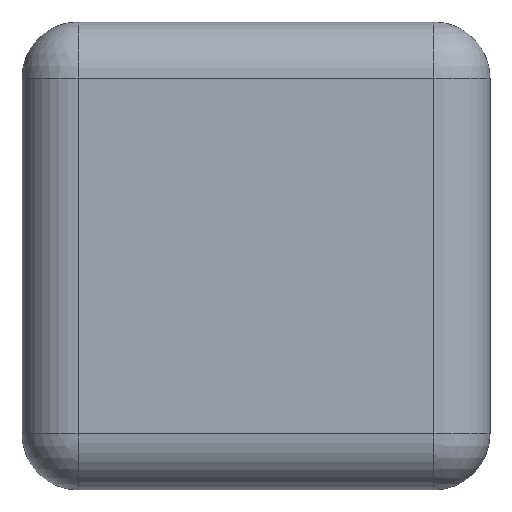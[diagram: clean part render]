
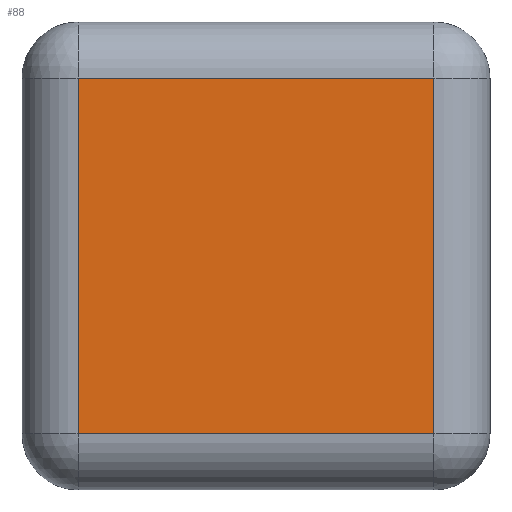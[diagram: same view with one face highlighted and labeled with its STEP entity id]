
A CAD part, top view. The second image highlights one B-rep face of the part: STEP entity #88.
In plain terms, the highlighted planar face has unit normal (0, 0, 1).
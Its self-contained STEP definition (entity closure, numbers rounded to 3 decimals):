
#34 = ORIENTED_EDGE ( 'NONE', *, *, #715, .T. ) ;
#36 = VECTOR ( 'NONE', #702, 1000. ) ;
#68 = DIRECTION ( 'NONE',  ( 0., -1., 0. ) ) ;
#72 = EDGE_LOOP ( 'NONE', ( #34, #135, #640, #692 ) ) ;
#88 = ADVANCED_FACE ( 'NONE', ( #666 ), #596, .T. ) ;
#92 = DIRECTION ( 'NONE',  ( 0., 0., 1. ) ) ;
#125 = VECTOR ( 'NONE', #532, 1000. ) ;
#135 = ORIENTED_EDGE ( 'NONE', *, *, #728, .T. ) ;
#144 = DIRECTION ( 'NONE',  ( 1., 0., 0. ) ) ;
#151 = VECTOR ( 'NONE', #68, 1000. ) ;
#161 = LINE ( 'NONE', #700, #517 ) ;
#164 = CARTESIAN_POINT ( 'NONE',  ( 9.5, -9.5, 1.5 ) ) ;
#167 = EDGE_CURVE ( 'NONE', #604, #581, #450, .T. ) ;
#253 = LINE ( 'NONE', #387, #151 ) ;
#335 = LINE ( 'NONE', #601, #125 ) ;
#364 = CARTESIAN_POINT ( 'NONE',  ( 9.5, -9.5, 1.5 ) ) ;
#387 = CARTESIAN_POINT ( 'NONE',  ( -9.5, -9.5, 1.5 ) ) ;
#432 = CARTESIAN_POINT ( 'NONE',  ( -9.5, -9.5, 1.5 ) ) ;
#450 = LINE ( 'NONE', #164, #36 ) ;
#517 = VECTOR ( 'NONE', #628, 1000. ) ;
#518 = AXIS2_PLACEMENT_3D ( 'NONE', #744, #92, #144 ) ;
#532 = DIRECTION ( 'NONE',  ( 0., 1., 0. ) ) ;
#548 = EDGE_CURVE ( 'NONE', #581, #689, #335, .T. ) ;
#581 = VERTEX_POINT ( 'NONE', #364 ) ;
#596 = PLANE ( 'NONE',  #518 ) ;
#601 = CARTESIAN_POINT ( 'NONE',  ( 9.5, 9.5, 1.5 ) ) ;
#604 = VERTEX_POINT ( 'NONE', #432 ) ;
#628 = DIRECTION ( 'NONE',  ( -1., 0., 0. ) ) ;
#640 = ORIENTED_EDGE ( 'NONE', *, *, #167, .T. ) ;
#666 = FACE_OUTER_BOUND ( 'NONE', #72, .T. ) ;
#689 = VERTEX_POINT ( 'NONE', #777 ) ;
#692 = ORIENTED_EDGE ( 'NONE', *, *, #548, .T. ) ;
#700 = CARTESIAN_POINT ( 'NONE',  ( -12.5, 9.5, 1.5 ) ) ;
#702 = DIRECTION ( 'NONE',  ( 1., 0., 0. ) ) ;
#715 = EDGE_CURVE ( 'NONE', #689, #732, #161, .T. ) ;
#717 = CARTESIAN_POINT ( 'NONE',  ( -9.5, 9.5, 1.5 ) ) ;
#728 = EDGE_CURVE ( 'NONE', #732, #604, #253, .T. ) ;
#732 = VERTEX_POINT ( 'NONE', #717 ) ;
#744 = CARTESIAN_POINT ( 'NONE',  ( 12.5, 12.5, 1.5 ) ) ;
#777 = CARTESIAN_POINT ( 'NONE',  ( 9.5, 9.5, 1.5 ) ) ;
